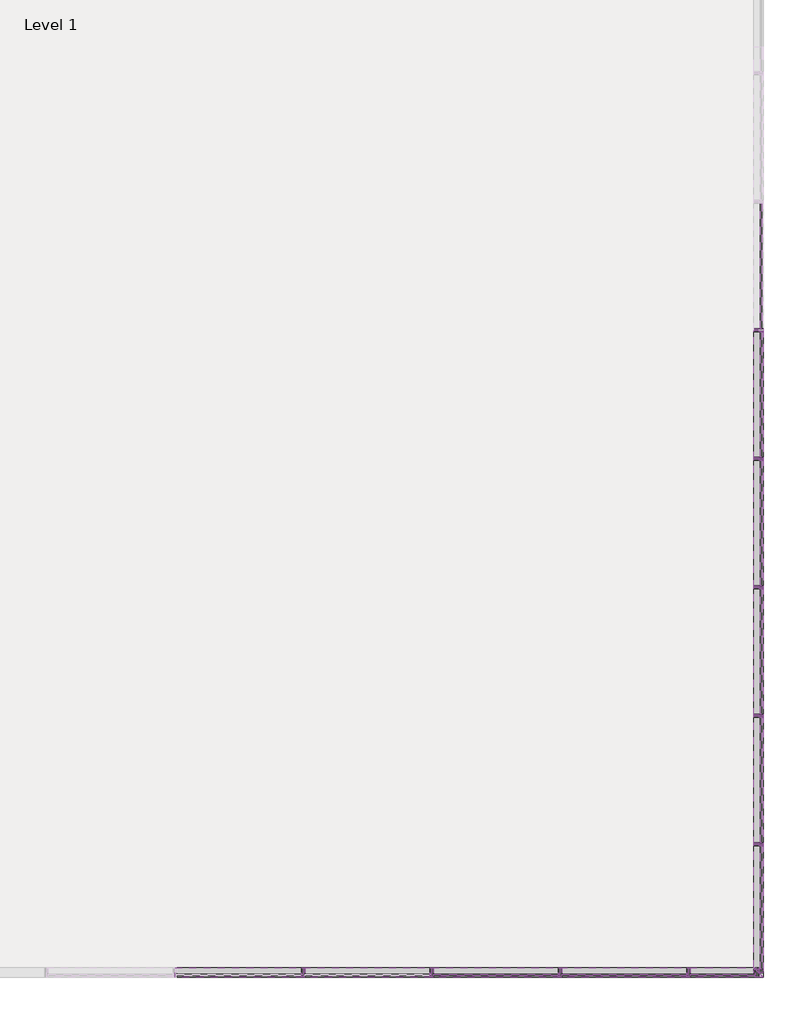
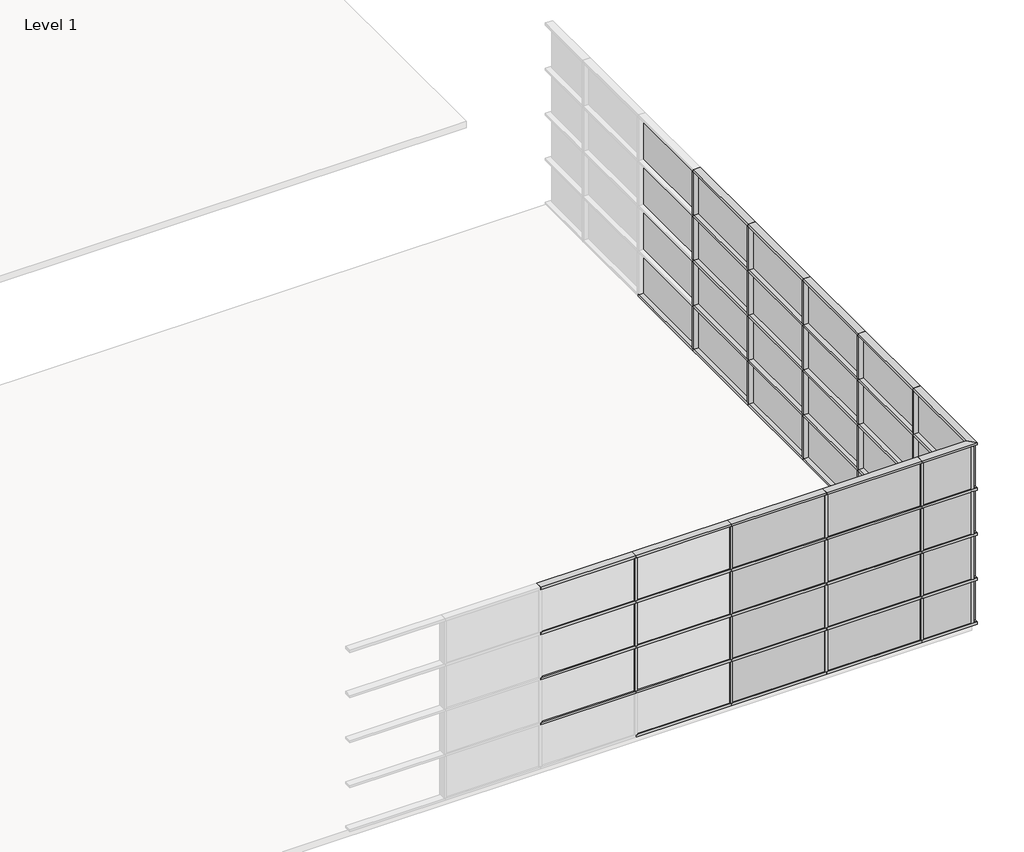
# One storey, part 3 of 6: 93 members, 36 plates.
"""IFC4 building model written with IfcOpenShell, lengths in millimetres."""

from ifc_helpers import new_model, si_unit, origin, place, context, project, spatial, transform, mapped, element, save
from components import rectangular_mullion_50_x_150mm_a053b0ca, rectangular_mullion_50_x_150mm_116cff39, rectangular_mullion_50_x_150mm_aa47fe12, rectangular_mullion_50_x_150mm_3a148f0f, rectangular_mullion_50_x_150mm_a91aaa2b, rectangular_mullion_50_x_150mm_12a430f9, rectangular_mullion_50_x_150mm_947845bb, rectangular_mullion_50_x_150mm_614fafcd, rectangular_mullion_50_x_150mm_f68fa77e, rectangular_mullion_50_x_150mm_6811f105, system_panel_glazed_92d57a36, system_panel_glazed_751a585c, system_panel_glazed_28c32ad2, system_panel_glazed_08de6f5f, system_panel_glazed_5611fd39, system_panel_glazed_3987acf4

model = new_model("IFC4")

# Units and contexts
model_context = context("Model", 3, world=origin())
ifc_project = project(units=[si_unit("LENGTHUNIT", "METRE", prefix="MILLI")], contexts=[model_context])

# Site, building, storey
site = spatial("IfcSite", under=ifc_project)
building = spatial("IfcBuilding", under=site)
storey = spatial("IfcBuildingStorey", under=building, Name="Level 1", Elevation=0.0)

# Members
placement = place(None, origin())
rectangular_mullion_50_x_150mm_shape = rectangular_mullion_50_x_150mm_a053b0ca(model_context)
element("IfcMember", 1, ObjectType="Rectangular Mullion : 50 x 150mm", at=placement, inside=storey, context=model_context, shape_type="MappedRepresentation", body=[
    mapped(rectangular_mullion_50_x_150mm_shape, transform((6412.826594, -21988.7417365, 1025.0), x_axis=(1.0, 0.0, 0.0), y_axis=(0.0, -1.0, 0.0), z_axis=(0.0, 0.0, -0.9999999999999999))),
])
element("IfcMember", 2, ObjectType="Rectangular Mullion : 50 x 150mm", at=placement, inside=storey, context=model_context, shape_type="MappedRepresentation", body=[
    mapped(rectangular_mullion_50_x_150mm_shape, transform((6412.826594, -21988.7417365, 2025.0), x_axis=(1.0, 0.0, 0.0), y_axis=(0.0, -1.0, 0.0), z_axis=(0.0, 0.0, -0.9999999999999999))),
])
element("IfcMember", 3, ObjectType="Rectangular Mullion : 50 x 150mm", at=placement, inside=storey, context=model_context, shape_type="MappedRepresentation", body=[
    mapped(rectangular_mullion_50_x_150mm_shape, transform((6412.826594, -21988.7417365, 3025.0), x_axis=(1.0, 0.0, 0.0), y_axis=(0.0, -1.0, 0.0), z_axis=(0.0, 0.0, -1.0))),
])
element("IfcMember", 4, ObjectType="Rectangular Mullion : 50 x 150mm", at=placement, inside=storey, context=model_context, shape_type="MappedRepresentation", body=[
    mapped(rectangular_mullion_50_x_150mm_shape, transform((8412.826594, -21988.7417365, 1025.0), x_axis=(1.0, 0.0, 0.0), y_axis=(0.0, -1.0, 0.0), z_axis=(0.0, 0.0, -0.9999999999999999))),
])
element("IfcMember", 5, ObjectType="Rectangular Mullion : 50 x 150mm", at=placement, inside=storey, context=model_context, shape_type="MappedRepresentation", body=[
    mapped(rectangular_mullion_50_x_150mm_shape, transform((8412.826594, -21988.7417365, 2025.0), x_axis=(1.0, 0.0, 0.0), y_axis=(0.0, -1.0, 0.0), z_axis=(0.0, 0.0, -0.9999999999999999))),
])
element("IfcMember", 6, ObjectType="Rectangular Mullion : 50 x 150mm", at=placement, inside=storey, context=model_context, shape_type="MappedRepresentation", body=[
    mapped(rectangular_mullion_50_x_150mm_shape, transform((8412.826594, -21988.7417365, 3025.0), x_axis=(1.0, 0.0, 0.0), y_axis=(0.0, -1.0, 0.0), z_axis=(0.0, 0.0, -1.0))),
])
element("IfcMember", 7, ObjectType="Rectangular Mullion : 50 x 150mm", at=placement, inside=storey, context=model_context, shape_type="MappedRepresentation", body=[
    mapped(rectangular_mullion_50_x_150mm_shape, transform((10412.826594, -21988.7417365, 1025.0), x_axis=(1.0, 0.0, 0.0), y_axis=(0.0, -1.0, 0.0), z_axis=(0.0, 0.0, -0.9999999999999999))),
])
element("IfcMember", 8, ObjectType="Rectangular Mullion : 50 x 150mm", at=placement, inside=storey, context=model_context, shape_type="MappedRepresentation", body=[
    mapped(rectangular_mullion_50_x_150mm_shape, transform((10412.826594, -21988.7417365, 2025.0), x_axis=(1.0, 0.0, 0.0), y_axis=(0.0, -1.0, 0.0), z_axis=(0.0, 0.0, -0.9999999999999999))),
])
element("IfcMember", 9, ObjectType="Rectangular Mullion : 50 x 150mm", at=placement, inside=storey, context=model_context, shape_type="MappedRepresentation", body=[
    mapped(rectangular_mullion_50_x_150mm_shape, transform((10412.826594, -21988.7417365, 3025.0), x_axis=(1.0, 0.0, 0.0), y_axis=(0.0, -1.0, 0.0), z_axis=(0.0, 0.0, -1.0))),
])
element("IfcMember", 10, ObjectType="Rectangular Mullion : 50 x 150mm", at=placement, inside=storey, context=model_context, shape_type="MappedRepresentation", body=[
    mapped(rectangular_mullion_50_x_150mm_shape, transform((12412.826594, -21988.7417365, 1025.0), x_axis=(1.0, 0.0, 0.0), y_axis=(0.0, -1.0, 0.0), z_axis=(0.0, 0.0, -0.9999999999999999))),
])
element("IfcMember", 11, ObjectType="Rectangular Mullion : 50 x 150mm", at=placement, inside=storey, context=model_context, shape_type="MappedRepresentation", body=[
    mapped(rectangular_mullion_50_x_150mm_shape, transform((12412.826594, -21988.7417365, 2025.0), x_axis=(1.0, 0.0, 0.0), y_axis=(0.0, -1.0, 0.0), z_axis=(0.0, 0.0, -0.9999999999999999))),
])
element("IfcMember", 12, ObjectType="Rectangular Mullion : 50 x 150mm", at=placement, inside=storey, context=model_context, shape_type="MappedRepresentation", body=[
    mapped(rectangular_mullion_50_x_150mm_shape, transform((12412.826594, -21988.7417365, 3025.0), x_axis=(1.0, 0.0, 0.0), y_axis=(0.0, -1.0, 0.0), z_axis=(0.0, 0.0, -0.9999999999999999))),
])
element("IfcMember", 13, ObjectType="Rectangular Mullion : 50 x 150mm", at=placement, inside=storey, context=model_context, shape_type="MappedRepresentation", body=[
    mapped(rectangular_mullion_50_x_150mm_shape, transform((13503.2660975, -13988.7417365, 2025.0), x_axis=(0.0, 1.0, 0.0), y_axis=(1.0, 0.0, 0.0), z_axis=(0.0, 0.0, -0.9999999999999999))),
])
element("IfcMember", 14, ObjectType="Rectangular Mullion : 50 x 150mm", at=placement, inside=storey, context=model_context, shape_type="MappedRepresentation", body=[
    mapped(rectangular_mullion_50_x_150mm_shape, transform((13503.2660975, -13988.7417365, 3025.0), x_axis=(0.0, 1.0, 0.0), y_axis=(1.0, 0.0, 0.0), z_axis=(0.0, 0.0, -1.0))),
])
element("IfcMember", 15, ObjectType="Rectangular Mullion : 50 x 150mm", at=placement, inside=storey, context=model_context, shape_type="MappedRepresentation", body=[
    mapped(rectangular_mullion_50_x_150mm_shape, transform((13503.2660975, -11988.7417365, 1025.0), x_axis=(0.0, 1.0, 0.0), y_axis=(1.0, 0.0, 0.0), z_axis=(0.0, 0.0, -0.9999999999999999))),
])
element("IfcMember", 16, ObjectType="Rectangular Mullion : 50 x 150mm", at=placement, inside=storey, context=model_context, shape_type="MappedRepresentation", body=[
    mapped(rectangular_mullion_50_x_150mm_shape, transform((13503.2660975, -11988.7417365, 2025.0), x_axis=(0.0, 1.0, 0.0), y_axis=(1.0, 0.0, 0.0), z_axis=(0.0, 0.0, -0.9999999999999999))),
])
element("IfcMember", 17, ObjectType="Rectangular Mullion : 50 x 150mm", at=placement, inside=storey, context=model_context, shape_type="MappedRepresentation", body=[
    mapped(rectangular_mullion_50_x_150mm_shape, transform((13503.2660975, -11988.7417365, 3025.0), x_axis=(0.0, 1.0, 0.0), y_axis=(1.0, 0.0, 0.0), z_axis=(0.0, 0.0, -1.0))),
])
element("IfcMember", 18, ObjectType="Rectangular Mullion : 50 x 150mm", at=placement, inside=storey, context=model_context, shape_type="MappedRepresentation", body=[
    mapped(rectangular_mullion_50_x_150mm_shape, transform((13503.2660975, -15988.7417365, 1025.0), x_axis=(0.0, 1.0, 0.0), y_axis=(1.0, 0.0, 0.0), z_axis=(0.0, 0.0, -0.9999999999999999))),
])
element("IfcMember", 19, ObjectType="Rectangular Mullion : 50 x 150mm", at=placement, inside=storey, context=model_context, shape_type="MappedRepresentation", body=[
    mapped(rectangular_mullion_50_x_150mm_shape, transform((13503.2660975, -15988.7417365, 2025.0), x_axis=(0.0, 1.0, 0.0), y_axis=(1.0, 0.0, 0.0), z_axis=(0.0, 0.0, -0.9999999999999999))),
])
element("IfcMember", 20, ObjectType="Rectangular Mullion : 50 x 150mm", at=placement, inside=storey, context=model_context, shape_type="MappedRepresentation", body=[
    mapped(rectangular_mullion_50_x_150mm_shape, transform((13503.2660975, -15988.7417365, 3025.0), x_axis=(0.0, 1.0, 0.0), y_axis=(1.0, 0.0, 0.0), z_axis=(0.0, 0.0, -1.0))),
])
element("IfcMember", 21, ObjectType="Rectangular Mullion : 50 x 150mm", at=placement, inside=storey, context=model_context, shape_type="MappedRepresentation", body=[
    mapped(rectangular_mullion_50_x_150mm_shape, transform((13503.2660975, -13988.7417365, 1025.0), x_axis=(0.0, 1.0, 0.0), y_axis=(1.0, 0.0, 0.0), z_axis=(0.0, 0.0, -0.9999999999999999))),
])
element("IfcMember", 22, ObjectType="Rectangular Mullion : 50 x 150mm", at=placement, inside=storey, context=model_context, shape_type="MappedRepresentation", body=[
    mapped(rectangular_mullion_50_x_150mm_shape, transform((13503.2660975, -19988.7417365, 1025.0), x_axis=(0.0, 1.0, 0.0), y_axis=(1.0, 0.0, 0.0), z_axis=(0.0, 0.0, -0.9999999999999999))),
])
element("IfcMember", 23, ObjectType="Rectangular Mullion : 50 x 150mm", at=placement, inside=storey, context=model_context, shape_type="MappedRepresentation", body=[
    mapped(rectangular_mullion_50_x_150mm_shape, transform((13503.2660975, -19988.7417365, 2025.0), x_axis=(0.0, 1.0, 0.0), y_axis=(1.0, 0.0, 0.0), z_axis=(0.0, 0.0, -0.9999999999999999))),
])
element("IfcMember", 24, ObjectType="Rectangular Mullion : 50 x 150mm", at=placement, inside=storey, context=model_context, shape_type="MappedRepresentation", body=[
    mapped(rectangular_mullion_50_x_150mm_shape, transform((13503.2660975, -19988.7417365, 3025.0), x_axis=(0.0, 1.0, 0.0), y_axis=(1.0, 0.0, 0.0), z_axis=(0.0, 0.0, -1.0))),
])
element("IfcMember", 25, ObjectType="Rectangular Mullion : 50 x 150mm", at=placement, inside=storey, context=model_context, shape_type="MappedRepresentation", body=[
    mapped(rectangular_mullion_50_x_150mm_shape, transform((13503.2660975, -17988.7417365, 1025.0), x_axis=(0.0, 1.0, 0.0), y_axis=(1.0, 0.0, 0.0), z_axis=(0.0, 0.0, -0.9999999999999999))),
])
element("IfcMember", 26, ObjectType="Rectangular Mullion : 50 x 150mm", at=placement, inside=storey, context=model_context, shape_type="MappedRepresentation", body=[
    mapped(rectangular_mullion_50_x_150mm_shape, transform((13503.2660975, -17988.7417365, 2025.0), x_axis=(0.0, 1.0, 0.0), y_axis=(1.0, 0.0, 0.0), z_axis=(0.0, 0.0, -0.9999999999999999))),
])
element("IfcMember", 27, ObjectType="Rectangular Mullion : 50 x 150mm", at=placement, inside=storey, context=model_context, shape_type="MappedRepresentation", body=[
    mapped(rectangular_mullion_50_x_150mm_shape, transform((13503.2660975, -17988.7417365, 3025.0), x_axis=(0.0, 1.0, 0.0), y_axis=(1.0, 0.0, 0.0), z_axis=(0.0, 0.0, -1.0))),
])
rectangular_mullion_50_x_150mm_2_shape = rectangular_mullion_50_x_150mm_116cff39(model_context)
element("IfcMember", 28, ObjectType="Rectangular Mullion : 50 x 150mm", at=placement, inside=storey, context=model_context, shape_type="MappedRepresentation", body=[
    mapped(rectangular_mullion_50_x_150mm_2_shape, transform((8412.826594, -21988.7417365, 50.0), x_axis=(1.0, 0.0, 0.0), y_axis=(0.0, -1.0, 0.0), z_axis=(0.0, 0.0, -1.0))),
])
element("IfcMember", 29, ObjectType="Rectangular Mullion : 50 x 150mm", at=placement, inside=storey, context=model_context, shape_type="MappedRepresentation", body=[
    mapped(rectangular_mullion_50_x_150mm_2_shape, transform((10412.826594, -21988.7417365, 50.0), x_axis=(1.0, 0.0, 0.0), y_axis=(0.0, -1.0, 0.0), z_axis=(0.0, 0.0, -1.0))),
])
element("IfcMember", 30, ObjectType="Rectangular Mullion : 50 x 150mm", at=placement, inside=storey, context=model_context, shape_type="MappedRepresentation", body=[
    mapped(rectangular_mullion_50_x_150mm_2_shape, transform((12412.826594, -21988.7417365, 50.0), x_axis=(1.0, 0.0, 0.0), y_axis=(0.0, -1.0, 0.0), z_axis=(0.0, 0.0, -1.0))),
])
element("IfcMember", 31, ObjectType="Rectangular Mullion : 50 x 150mm", at=placement, inside=storey, context=model_context, shape_type="MappedRepresentation", body=[
    mapped(rectangular_mullion_50_x_150mm_2_shape, transform((13503.2660975, -11988.7417365, 50.0), x_axis=(0.0, 1.0, 0.0), y_axis=(1.0, 0.0, 0.0), z_axis=(0.0, 0.0, -1.0))),
])
element("IfcMember", 32, ObjectType="Rectangular Mullion : 50 x 150mm", at=placement, inside=storey, context=model_context, shape_type="MappedRepresentation", body=[
    mapped(rectangular_mullion_50_x_150mm_2_shape, transform((13503.2660975, -15988.7417365, 50.0), x_axis=(0.0, 1.0, 0.0), y_axis=(1.0, 0.0, 0.0), z_axis=(0.0, 0.0, -1.0))),
])
element("IfcMember", 33, ObjectType="Rectangular Mullion : 50 x 150mm", at=placement, inside=storey, context=model_context, shape_type="MappedRepresentation", body=[
    mapped(rectangular_mullion_50_x_150mm_2_shape, transform((13503.2660975, -13988.7417365, 50.0), x_axis=(0.0, 1.0, 0.0), y_axis=(1.0, 0.0, 0.0), z_axis=(0.0, 0.0, -1.0))),
])
element("IfcMember", 34, ObjectType="Rectangular Mullion : 50 x 150mm", at=placement, inside=storey, context=model_context, shape_type="MappedRepresentation", body=[
    mapped(rectangular_mullion_50_x_150mm_2_shape, transform((13503.2660975, -19988.7417365, 50.0), x_axis=(0.0, 1.0, 0.0), y_axis=(1.0, 0.0, 0.0), z_axis=(0.0, 0.0, -1.0))),
])
element("IfcMember", 35, ObjectType="Rectangular Mullion : 50 x 150mm", at=placement, inside=storey, context=model_context, shape_type="MappedRepresentation", body=[
    mapped(rectangular_mullion_50_x_150mm_2_shape, transform((13503.2660975, -17988.7417365, 50.0), x_axis=(0.0, 1.0, 0.0), y_axis=(1.0, 0.0, 0.0), z_axis=(0.0, 0.0, -1.0))),
])
rectangular_mullion_50_x_150mm_3_shape = rectangular_mullion_50_x_150mm_aa47fe12(model_context)
element("IfcMember", 36, ObjectType="Rectangular Mullion : 50 x 150mm", at=placement, inside=storey, context=model_context, shape_type="MappedRepresentation", body=[
    mapped(rectangular_mullion_50_x_150mm_3_shape, transform((6412.826594, -21988.7417365, 0.0), x_axis=(0.0, 0.0, -1.0), y_axis=(0.0, -1.0, 0.0), z_axis=(-1.0, 0.0, 0.0))),
])
element("IfcMember", 37, ObjectType="Rectangular Mullion : 50 x 150mm", at=placement, inside=storey, context=model_context, shape_type="MappedRepresentation", body=[
    mapped(rectangular_mullion_50_x_150mm_3_shape, transform((8412.826594, -21988.7417365, 0.0), x_axis=(0.0, 0.0, -1.0), y_axis=(0.0, -1.0, 0.0), z_axis=(-1.0, 0.0, 0.0))),
])
element("IfcMember", 38, ObjectType="Rectangular Mullion : 50 x 150mm", at=placement, inside=storey, context=model_context, shape_type="MappedRepresentation", body=[
    mapped(rectangular_mullion_50_x_150mm_3_shape, transform((10412.826594, -21988.7417365, 0.0), x_axis=(0.0, 0.0, -1.0), y_axis=(0.0, -1.0, 0.0), z_axis=(-1.0, 0.0, 0.0))),
])
element("IfcMember", 39, ObjectType="Rectangular Mullion : 50 x 150mm", at=placement, inside=storey, context=model_context, shape_type="MappedRepresentation", body=[
    mapped(rectangular_mullion_50_x_150mm_3_shape, transform((13503.2660975, -19988.7417365, 0.0), x_axis=(0.0, 0.0, -1.0), y_axis=(1.0, 0.0, 0.0), z_axis=(0.0, -1.0, 0.0))),
])
element("IfcMember", 40, ObjectType="Rectangular Mullion : 50 x 150mm", at=placement, inside=storey, context=model_context, shape_type="MappedRepresentation", body=[
    mapped(rectangular_mullion_50_x_150mm_3_shape, transform((13503.2660975, -17988.7417365, 0.0), x_axis=(0.0, 0.0, -1.0), y_axis=(1.0, 0.0, 0.0), z_axis=(0.0, -1.0, 0.0))),
])
element("IfcMember", 41, ObjectType="Rectangular Mullion : 50 x 150mm", at=placement, inside=storey, context=model_context, shape_type="MappedRepresentation", body=[
    mapped(rectangular_mullion_50_x_150mm_3_shape, transform((13503.2660975, -15988.7417365, 0.0), x_axis=(0.0, 0.0, -1.0), y_axis=(1.0, 0.0, 0.0), z_axis=(0.0, -1.0, 0.0))),
])
element("IfcMember", 42, ObjectType="Rectangular Mullion : 50 x 150mm", at=placement, inside=storey, context=model_context, shape_type="MappedRepresentation", body=[
    mapped(rectangular_mullion_50_x_150mm_3_shape, transform((13503.2660975, -13988.7417365, 0.0), x_axis=(0.0, 0.0, -1.0), y_axis=(1.0, 0.0, 0.0), z_axis=(0.0, -1.0, 0.0))),
])
element("IfcMember", 43, ObjectType="Rectangular Mullion : 50 x 150mm", at=placement, inside=storey, context=model_context, shape_type="MappedRepresentation", body=[
    mapped(rectangular_mullion_50_x_150mm_3_shape, transform((13503.2660975, -11988.7417365, 0.0), x_axis=(0.0, 0.0, -1.0), y_axis=(1.0, 0.0, 0.0), z_axis=(0.0, -1.0, 0.0))),
])
rectangular_mullion_50_x_150mm_4_shape = rectangular_mullion_50_x_150mm_3a148f0f(model_context)
element("IfcMember", 44, ObjectType="Rectangular Mullion : 50 x 150mm", at=placement, inside=storey, context=model_context, shape_type="MappedRepresentation", body=[
    mapped(rectangular_mullion_50_x_150mm_4_shape, transform((6412.826594, -21988.7417365, 1000.0), x_axis=(0.0, 0.0, 1.0), y_axis=(0.0, -1.0, 0.0), z_axis=(1.0, 0.0, 0.0))),
])
element("IfcMember", 45, ObjectType="Rectangular Mullion : 50 x 150mm", at=placement, inside=storey, context=model_context, shape_type="MappedRepresentation", body=[
    mapped(rectangular_mullion_50_x_150mm_4_shape, transform((8412.826594, -21988.7417365, 1000.0), x_axis=(0.0, 0.0, 1.0), y_axis=(0.0, -1.0, 0.0), z_axis=(1.0, 0.0, 0.0))),
])
element("IfcMember", 46, ObjectType="Rectangular Mullion : 50 x 150mm", at=placement, inside=storey, context=model_context, shape_type="MappedRepresentation", body=[
    mapped(rectangular_mullion_50_x_150mm_4_shape, transform((10412.826594, -21988.7417365, 1000.0), x_axis=(0.0, 0.0, 1.0), y_axis=(0.0, -1.0, 0.0), z_axis=(1.0, 0.0, 0.0))),
])
element("IfcMember", 47, ObjectType="Rectangular Mullion : 50 x 150mm", at=placement, inside=storey, context=model_context, shape_type="MappedRepresentation", body=[
    mapped(rectangular_mullion_50_x_150mm_4_shape, transform((12412.826594, -21988.7417365, 1000.0), x_axis=(0.0, 0.0, 1.0), y_axis=(0.0, -1.0, 0.0), z_axis=(1.0, 0.0, 0.0))),
])
element("IfcMember", 48, ObjectType="Rectangular Mullion : 50 x 150mm", at=placement, inside=storey, context=model_context, shape_type="MappedRepresentation", body=[
    mapped(rectangular_mullion_50_x_150mm_4_shape, transform((6412.826594, -21988.7417365, 2000.0), x_axis=(0.0, 0.0, 1.0), y_axis=(0.0, -1.0, 0.0), z_axis=(1.0, 0.0, 0.0))),
])
element("IfcMember", 49, ObjectType="Rectangular Mullion : 50 x 150mm", at=placement, inside=storey, context=model_context, shape_type="MappedRepresentation", body=[
    mapped(rectangular_mullion_50_x_150mm_4_shape, transform((8412.826594, -21988.7417365, 2000.0), x_axis=(0.0, 0.0, 1.0), y_axis=(0.0, -1.0, 0.0), z_axis=(1.0, 0.0, 0.0))),
])
element("IfcMember", 50, ObjectType="Rectangular Mullion : 50 x 150mm", at=placement, inside=storey, context=model_context, shape_type="MappedRepresentation", body=[
    mapped(rectangular_mullion_50_x_150mm_4_shape, transform((10412.826594, -21988.7417365, 2000.0), x_axis=(0.0, 0.0, 1.0), y_axis=(0.0, -1.0, 0.0), z_axis=(1.0, 0.0, 0.0))),
])
element("IfcMember", 51, ObjectType="Rectangular Mullion : 50 x 150mm", at=placement, inside=storey, context=model_context, shape_type="MappedRepresentation", body=[
    mapped(rectangular_mullion_50_x_150mm_4_shape, transform((12412.826594, -21988.7417365, 2000.0), x_axis=(0.0, 0.0, 1.0), y_axis=(0.0, -1.0, 0.0), z_axis=(1.0, 0.0, 0.0))),
])
element("IfcMember", 52, ObjectType="Rectangular Mullion : 50 x 150mm", at=placement, inside=storey, context=model_context, shape_type="MappedRepresentation", body=[
    mapped(rectangular_mullion_50_x_150mm_4_shape, transform((6412.826594, -21988.7417365, 3000.0), x_axis=(0.0, 0.0, 1.0), y_axis=(0.0, -1.0, 0.0), z_axis=(1.0, 0.0, 0.0))),
])
element("IfcMember", 53, ObjectType="Rectangular Mullion : 50 x 150mm", at=placement, inside=storey, context=model_context, shape_type="MappedRepresentation", body=[
    mapped(rectangular_mullion_50_x_150mm_4_shape, transform((8412.826594, -21988.7417365, 3000.0), x_axis=(0.0, 0.0, 1.0), y_axis=(0.0, -1.0, 0.0), z_axis=(1.0, 0.0, 0.0))),
])
element("IfcMember", 54, ObjectType="Rectangular Mullion : 50 x 150mm", at=placement, inside=storey, context=model_context, shape_type="MappedRepresentation", body=[
    mapped(rectangular_mullion_50_x_150mm_4_shape, transform((10412.826594, -21988.7417365, 3000.0), x_axis=(0.0, 0.0, 1.0), y_axis=(0.0, -1.0, 0.0), z_axis=(1.0, 0.0, 0.0))),
])
element("IfcMember", 55, ObjectType="Rectangular Mullion : 50 x 150mm", at=placement, inside=storey, context=model_context, shape_type="MappedRepresentation", body=[
    mapped(rectangular_mullion_50_x_150mm_4_shape, transform((12412.826594, -21988.7417365, 3000.0), x_axis=(0.0, 0.0, 1.0), y_axis=(0.0, -1.0, 0.0), z_axis=(1.0, 0.0, 0.0))),
])
element("IfcMember", 56, ObjectType="Rectangular Mullion : 50 x 150mm", at=placement, inside=storey, context=model_context, shape_type="MappedRepresentation", body=[
    mapped(rectangular_mullion_50_x_150mm_4_shape, transform((6412.826594, -21988.7417365, 4000.0), x_axis=(0.0, 0.0, 1.0), y_axis=(0.0, -1.0, 0.0), z_axis=(1.0, 0.0, 0.0))),
])
element("IfcMember", 57, ObjectType="Rectangular Mullion : 50 x 150mm", at=placement, inside=storey, context=model_context, shape_type="MappedRepresentation", body=[
    mapped(rectangular_mullion_50_x_150mm_4_shape, transform((8412.826594, -21988.7417365, 4000.0), x_axis=(0.0, 0.0, 1.0), y_axis=(0.0, -1.0, 0.0), z_axis=(1.0, 0.0, 0.0))),
])
element("IfcMember", 58, ObjectType="Rectangular Mullion : 50 x 150mm", at=placement, inside=storey, context=model_context, shape_type="MappedRepresentation", body=[
    mapped(rectangular_mullion_50_x_150mm_4_shape, transform((10412.826594, -21988.7417365, 4000.0), x_axis=(0.0, 0.0, 1.0), y_axis=(0.0, -1.0, 0.0), z_axis=(1.0, 0.0, 0.0))),
])
element("IfcMember", 59, ObjectType="Rectangular Mullion : 50 x 150mm", at=placement, inside=storey, context=model_context, shape_type="MappedRepresentation", body=[
    mapped(rectangular_mullion_50_x_150mm_4_shape, transform((12412.826594, -21988.7417365, 4000.0), x_axis=(0.0, 0.0, 1.0), y_axis=(0.0, -1.0, 0.0), z_axis=(1.0, 0.0, 0.0))),
])
element("IfcMember", 60, ObjectType="Rectangular Mullion : 50 x 150mm", at=placement, inside=storey, context=model_context, shape_type="MappedRepresentation", body=[
    mapped(rectangular_mullion_50_x_150mm_4_shape, transform((13503.2660975, -17988.7417365, 1000.0), x_axis=(0.0, 0.0, 1.0), y_axis=(1.0, 0.0, 0.0), z_axis=(0.0, 1.0, 0.0))),
])
element("IfcMember", 61, ObjectType="Rectangular Mullion : 50 x 150mm", at=placement, inside=storey, context=model_context, shape_type="MappedRepresentation", body=[
    mapped(rectangular_mullion_50_x_150mm_4_shape, transform((13503.2660975, -15988.7417365, 1000.0), x_axis=(0.0, 0.0, 1.0), y_axis=(1.0, 0.0, 0.0), z_axis=(0.0, 1.0, 0.0))),
])
element("IfcMember", 62, ObjectType="Rectangular Mullion : 50 x 150mm", at=placement, inside=storey, context=model_context, shape_type="MappedRepresentation", body=[
    mapped(rectangular_mullion_50_x_150mm_4_shape, transform((13503.2660975, -13988.7417365, 1000.0), x_axis=(0.0, 0.0, 1.0), y_axis=(1.0, 0.0, 0.0), z_axis=(0.0, 1.0, 0.0))),
])
element("IfcMember", 63, ObjectType="Rectangular Mullion : 50 x 150mm", at=placement, inside=storey, context=model_context, shape_type="MappedRepresentation", body=[
    mapped(rectangular_mullion_50_x_150mm_4_shape, transform((13503.2660975, -11988.7417365, 1000.0), x_axis=(0.0, 0.0, 1.0), y_axis=(1.0, 0.0, 0.0), z_axis=(0.0, 1.0, 0.0))),
])
element("IfcMember", 64, ObjectType="Rectangular Mullion : 50 x 150mm", at=placement, inside=storey, context=model_context, shape_type="MappedRepresentation", body=[
    mapped(rectangular_mullion_50_x_150mm_4_shape, transform((13503.2660975, -17988.7417365, 2000.0), x_axis=(0.0, 0.0, 1.0), y_axis=(1.0, 0.0, 0.0), z_axis=(0.0, 1.0, 0.0))),
])
element("IfcMember", 65, ObjectType="Rectangular Mullion : 50 x 150mm", at=placement, inside=storey, context=model_context, shape_type="MappedRepresentation", body=[
    mapped(rectangular_mullion_50_x_150mm_4_shape, transform((13503.2660975, -15988.7417365, 2000.0), x_axis=(0.0, 0.0, 1.0), y_axis=(1.0, 0.0, 0.0), z_axis=(0.0, 1.0, 0.0))),
])
element("IfcMember", 66, ObjectType="Rectangular Mullion : 50 x 150mm", at=placement, inside=storey, context=model_context, shape_type="MappedRepresentation", body=[
    mapped(rectangular_mullion_50_x_150mm_4_shape, transform((13503.2660975, -13988.7417365, 2000.0), x_axis=(0.0, 0.0, 1.0), y_axis=(1.0, 0.0, 0.0), z_axis=(0.0, 1.0, 0.0))),
])
element("IfcMember", 67, ObjectType="Rectangular Mullion : 50 x 150mm", at=placement, inside=storey, context=model_context, shape_type="MappedRepresentation", body=[
    mapped(rectangular_mullion_50_x_150mm_4_shape, transform((13503.2660975, -11988.7417365, 2000.0), x_axis=(0.0, 0.0, 1.0), y_axis=(1.0, 0.0, 0.0), z_axis=(0.0, 1.0, 0.0))),
])
element("IfcMember", 68, ObjectType="Rectangular Mullion : 50 x 150mm", at=placement, inside=storey, context=model_context, shape_type="MappedRepresentation", body=[
    mapped(rectangular_mullion_50_x_150mm_4_shape, transform((13503.2660975, -17988.7417365, 3000.0), x_axis=(0.0, 0.0, 1.0), y_axis=(1.0, 0.0, 0.0), z_axis=(0.0, 1.0, 0.0))),
])
element("IfcMember", 69, ObjectType="Rectangular Mullion : 50 x 150mm", at=placement, inside=storey, context=model_context, shape_type="MappedRepresentation", body=[
    mapped(rectangular_mullion_50_x_150mm_4_shape, transform((13503.2660975, -15988.7417365, 3000.0), x_axis=(0.0, 0.0, 1.0), y_axis=(1.0, 0.0, 0.0), z_axis=(0.0, 1.0, 0.0))),
])
element("IfcMember", 70, ObjectType="Rectangular Mullion : 50 x 150mm", at=placement, inside=storey, context=model_context, shape_type="MappedRepresentation", body=[
    mapped(rectangular_mullion_50_x_150mm_4_shape, transform((13503.2660975, -13988.7417365, 3000.0), x_axis=(0.0, 0.0, 1.0), y_axis=(1.0, 0.0, 0.0), z_axis=(0.0, 1.0, 0.0))),
])
element("IfcMember", 71, ObjectType="Rectangular Mullion : 50 x 150mm", at=placement, inside=storey, context=model_context, shape_type="MappedRepresentation", body=[
    mapped(rectangular_mullion_50_x_150mm_4_shape, transform((13503.2660975, -11988.7417365, 3000.0), x_axis=(0.0, 0.0, 1.0), y_axis=(1.0, 0.0, 0.0), z_axis=(0.0, 1.0, 0.0))),
])
element("IfcMember", 72, ObjectType="Rectangular Mullion : 50 x 150mm", at=placement, inside=storey, context=model_context, shape_type="MappedRepresentation", body=[
    mapped(rectangular_mullion_50_x_150mm_4_shape, transform((13503.2660975, -17988.7417365, 4000.0), x_axis=(0.0, 0.0, 1.0), y_axis=(1.0, 0.0, 0.0), z_axis=(0.0, 1.0, 0.0))),
])
element("IfcMember", 73, ObjectType="Rectangular Mullion : 50 x 150mm", at=placement, inside=storey, context=model_context, shape_type="MappedRepresentation", body=[
    mapped(rectangular_mullion_50_x_150mm_4_shape, transform((13503.2660975, -15988.7417365, 4000.0), x_axis=(0.0, 0.0, 1.0), y_axis=(1.0, 0.0, 0.0), z_axis=(0.0, 1.0, 0.0))),
])
element("IfcMember", 74, ObjectType="Rectangular Mullion : 50 x 150mm", at=placement, inside=storey, context=model_context, shape_type="MappedRepresentation", body=[
    mapped(rectangular_mullion_50_x_150mm_4_shape, transform((13503.2660975, -13988.7417365, 4000.0), x_axis=(0.0, 0.0, 1.0), y_axis=(1.0, 0.0, 0.0), z_axis=(0.0, 1.0, 0.0))),
])
element("IfcMember", 75, ObjectType="Rectangular Mullion : 50 x 150mm", at=placement, inside=storey, context=model_context, shape_type="MappedRepresentation", body=[
    mapped(rectangular_mullion_50_x_150mm_4_shape, transform((13503.2660975, -11988.7417365, 4000.0), x_axis=(0.0, 0.0, 1.0), y_axis=(1.0, 0.0, 0.0), z_axis=(0.0, 1.0, 0.0))),
])
rectangular_mullion_50_x_150mm_5_shape = rectangular_mullion_50_x_150mm_a91aaa2b(model_context)
element("IfcMember", 76, ObjectType="Rectangular Mullion : 50 x 150mm", at=placement, inside=storey, context=model_context, shape_type="MappedRepresentation", body=[
    mapped(rectangular_mullion_50_x_150mm_5_shape, transform((13503.2660975, -21988.7417365, 975.0), x_axis=(0.0, -1.0, 0.0), y_axis=(1.0, 0.0, 0.0), z_axis=(0.0, 0.0, 1.0))),
])
rectangular_mullion_50_x_150mm_6_shape = rectangular_mullion_50_x_150mm_12a430f9(model_context)
element("IfcMember", 77, ObjectType="Rectangular Mullion : 50 x 150mm", at=placement, inside=storey, context=model_context, shape_type="MappedRepresentation", body=[
    mapped(rectangular_mullion_50_x_150mm_6_shape, transform((13503.2660975, -21988.7417365, 1975.0), x_axis=(0.0, -1.0, 0.0), y_axis=(1.0, 0.0, 0.0), z_axis=(0.0, 0.0, 0.9999999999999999))),
])
element("IfcMember", 78, ObjectType="Rectangular Mullion : 50 x 150mm", at=placement, inside=storey, context=model_context, shape_type="MappedRepresentation", body=[
    mapped(rectangular_mullion_50_x_150mm_6_shape, transform((13503.2660975, -21988.7417365, 2975.0), x_axis=(0.0, -1.0, 0.0), y_axis=(1.0, 0.0, 0.0), z_axis=(0.0, 0.0, 0.9999999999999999))),
])
element("IfcMember", 79, ObjectType="Rectangular Mullion : 50 x 150mm", at=placement, inside=storey, context=model_context, shape_type="MappedRepresentation", body=[
    mapped(rectangular_mullion_50_x_150mm_6_shape, transform((13503.2660975, -21988.7417365, 3975.0), x_axis=(0.0, -1.0, 0.0), y_axis=(1.0, 0.0, 0.0), z_axis=(0.0, 0.0, 1.0))),
])
element("IfcMember", 80, ObjectType="Rectangular Mullion : 50 x 150mm", at=placement, inside=storey, context=model_context, shape_type="MappedRepresentation", body=[
    mapped(rectangular_mullion_50_x_150mm_6_shape, transform((13503.2660975, -21988.7417365, 1025.0), x_axis=(1.0, 0.0, 0.0), y_axis=(0.0, -1.0, 0.0), z_axis=(0.0, 0.0, -0.9999999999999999))),
])
element("IfcMember", 81, ObjectType="Rectangular Mullion : 50 x 150mm", at=placement, inside=storey, context=model_context, shape_type="MappedRepresentation", body=[
    mapped(rectangular_mullion_50_x_150mm_6_shape, transform((13503.2660975, -21988.7417365, 2025.0), x_axis=(1.0, 0.0, 0.0), y_axis=(0.0, -1.0, 0.0), z_axis=(0.0, 0.0, -0.9999999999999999))),
])
element("IfcMember", 82, ObjectType="Rectangular Mullion : 50 x 150mm", at=placement, inside=storey, context=model_context, shape_type="MappedRepresentation", body=[
    mapped(rectangular_mullion_50_x_150mm_6_shape, transform((13503.2660975, -21988.7417365, 3025.0), x_axis=(1.0, 0.0, 0.0), y_axis=(0.0, -1.0, 0.0), z_axis=(0.0, 0.0, -1.0))),
])
element("IfcMember", 83, ObjectType="Rectangular Mullion : 50 x 150mm", at=placement, inside=storey, context=model_context, shape_type="MappedRepresentation", body=[
    mapped(rectangular_mullion_50_x_150mm_5_shape, transform((13503.2660975, -21988.7417365, 50.0), x_axis=(1.0, 0.0, 0.0), y_axis=(0.0, -1.0, 0.0), z_axis=(0.0, 0.0, -1.0))),
])
rectangular_mullion_50_x_150mm_7_shape = rectangular_mullion_50_x_150mm_947845bb(model_context)
element("IfcMember", 84, ObjectType="Rectangular Mullion : 50 x 150mm", at=placement, inside=storey, context=model_context, shape_type="MappedRepresentation", body=[
    mapped(rectangular_mullion_50_x_150mm_7_shape, transform((13503.2660975, -19988.7417365, 1000.0), x_axis=(0.0, 0.0, 1.0), y_axis=(1.0, 0.0, 0.0), z_axis=(0.0, 1.0, 0.0))),
])
element("IfcMember", 85, ObjectType="Rectangular Mullion : 50 x 150mm", at=placement, inside=storey, context=model_context, shape_type="MappedRepresentation", body=[
    mapped(rectangular_mullion_50_x_150mm_7_shape, transform((13503.2660975, -19988.7417365, 2000.0), x_axis=(0.0, 0.0, 1.0), y_axis=(1.0, 0.0, 0.0), z_axis=(0.0, 1.0, 0.0))),
])
element("IfcMember", 86, ObjectType="Rectangular Mullion : 50 x 150mm", at=placement, inside=storey, context=model_context, shape_type="MappedRepresentation", body=[
    mapped(rectangular_mullion_50_x_150mm_7_shape, transform((13503.2660975, -19988.7417365, 3000.0), x_axis=(0.0, 0.0, 1.0), y_axis=(1.0, 0.0, 0.0), z_axis=(0.0, 1.0, 0.0))),
])
element("IfcMember", 87, ObjectType="Rectangular Mullion : 50 x 150mm", at=placement, inside=storey, context=model_context, shape_type="MappedRepresentation", body=[
    mapped(rectangular_mullion_50_x_150mm_7_shape, transform((13503.2660975, -19988.7417365, 4000.0), x_axis=(0.0, 0.0, 1.0), y_axis=(1.0, 0.0, 0.0), z_axis=(0.0, 1.0, 0.0))),
])
rectangular_mullion_50_x_150mm_8_shape = rectangular_mullion_50_x_150mm_614fafcd(model_context)
element("IfcMember", 88, ObjectType="Rectangular Mullion : 50 x 150mm", at=placement, inside=storey, context=model_context, shape_type="MappedRepresentation", body=[
    mapped(rectangular_mullion_50_x_150mm_8_shape, transform((13503.2660975, -21988.7417365, 0.0), x_axis=(0.0, 0.0, -1.0), y_axis=(1.0, 0.0, 0.0), z_axis=(0.0, -1.0, 0.0))),
])
rectangular_mullion_50_x_150mm_9_shape = rectangular_mullion_50_x_150mm_f68fa77e(model_context)
element("IfcMember", 89, ObjectType="Rectangular Mullion : 50 x 150mm", at=placement, inside=storey, context=model_context, shape_type="MappedRepresentation", body=[
    mapped(rectangular_mullion_50_x_150mm_9_shape, transform((13503.2660975, -21988.7417365, 4000.0), x_axis=(0.0, 0.0, 1.0), y_axis=(0.0, -1.0, 0.0), z_axis=(0.9999999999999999, 0.0, 0.0))),
])
element("IfcMember", 90, ObjectType="Rectangular Mullion : 50 x 150mm", at=placement, inside=storey, context=model_context, shape_type="MappedRepresentation", body=[
    mapped(rectangular_mullion_50_x_150mm_9_shape, transform((13503.2660975, -21988.7417365, 3000.0), x_axis=(0.0, 0.0, 1.0), y_axis=(0.0, -1.0, 0.0), z_axis=(0.9999999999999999, 0.0, 0.0))),
])
element("IfcMember", 91, ObjectType="Rectangular Mullion : 50 x 150mm", at=placement, inside=storey, context=model_context, shape_type="MappedRepresentation", body=[
    mapped(rectangular_mullion_50_x_150mm_9_shape, transform((13503.2660975, -21988.7417365, 2000.0), x_axis=(0.0, 0.0, 1.0), y_axis=(0.0, -1.0, 0.0), z_axis=(0.9999999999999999, 0.0, 0.0))),
])
element("IfcMember", 92, ObjectType="Rectangular Mullion : 50 x 150mm", at=placement, inside=storey, context=model_context, shape_type="MappedRepresentation", body=[
    mapped(rectangular_mullion_50_x_150mm_9_shape, transform((13503.2660975, -21988.7417365, 1000.0), x_axis=(0.0, 0.0, 1.0), y_axis=(0.0, -1.0, 0.0), z_axis=(0.9999999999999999, 0.0, 0.0))),
])
rectangular_mullion_50_x_150mm_10_shape = rectangular_mullion_50_x_150mm_6811f105(model_context)
element("IfcMember", 93, ObjectType="Rectangular Mullion : 50 x 150mm", at=placement, inside=storey, context=model_context, shape_type="MappedRepresentation", body=[
    mapped(rectangular_mullion_50_x_150mm_10_shape, transform((12412.826594, -21988.7417365, 0.0), x_axis=(0.0, 0.0, -1.0), y_axis=(0.0, -1.0, 0.0), z_axis=(-0.9999999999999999, 0.0, 0.0))),
])

# Plates
system_panel_glazed_shape = system_panel_glazed_92d57a36(model_context)
element("IfcPlate", 94, ObjectType="System Panel : Glazed", at=placement, inside=storey, context=model_context, shape_type="MappedRepresentation", body=[
    mapped(system_panel_glazed_shape, transform((13503.2660975, -21938.7417365, 512.5), x_axis=(0.0, 0.0, 1.0), y_axis=(1.0, 0.0, 0.0), z_axis=(0.0, 1.0, 0.0))),
])
system_panel_glazed_2_shape = system_panel_glazed_751a585c(model_context)
element("IfcPlate", 95, ObjectType="System Panel : Glazed", at=placement, inside=storey, context=model_context, shape_type="MappedRepresentation", body=[
    mapped(system_panel_glazed_2_shape, transform((13503.2660975, -21938.7417365, 1500.0), x_axis=(0.0, 0.0, 1.0), y_axis=(1.0, 0.0, 0.0), z_axis=(0.0, 1.0, 0.0))),
])
element("IfcPlate", 96, ObjectType="System Panel : Glazed", at=placement, inside=storey, context=model_context, shape_type="MappedRepresentation", body=[
    mapped(system_panel_glazed_2_shape, transform((13503.2660975, -21938.7417365, 2500.0), x_axis=(0.0, 0.0, 1.0), y_axis=(1.0, 0.0, 0.0), z_axis=(0.0, 1.0, 0.0))),
])
element("IfcPlate", 97, ObjectType="System Panel : Glazed", at=placement, inside=storey, context=model_context, shape_type="MappedRepresentation", body=[
    mapped(system_panel_glazed_2_shape, transform((13503.2660975, -21938.7417365, 3500.0), x_axis=(0.0, 0.0, 1.0), y_axis=(1.0, 0.0, 0.0), z_axis=(0.0, 1.0, 0.0))),
])
system_panel_glazed_3_shape = system_panel_glazed_28c32ad2(model_context)
element("IfcPlate", 98, ObjectType="System Panel : Glazed", at=placement, inside=storey, context=model_context, shape_type="MappedRepresentation", body=[
    mapped(system_panel_glazed_3_shape, transform((8437.826594, -21988.7417365, 512.5), x_axis=(0.0, 0.0, 1.0), y_axis=(0.0, -1.0, 0.0), z_axis=(1.0, 0.0, 0.0))),
])
element("IfcPlate", 99, ObjectType="System Panel : Glazed", at=placement, inside=storey, context=model_context, shape_type="MappedRepresentation", body=[
    mapped(system_panel_glazed_3_shape, transform((10437.826594, -21988.7417365, 512.5), x_axis=(0.0, 0.0, 1.0), y_axis=(0.0, -1.0, 0.0), z_axis=(1.0, 0.0, 0.0))),
])
element("IfcPlate", 100, ObjectType="System Panel : Glazed", at=placement, inside=storey, context=model_context, shape_type="MappedRepresentation", body=[
    mapped(system_panel_glazed_3_shape, transform((13503.2660975, -19963.7417365, 512.5), x_axis=(0.0, 0.0, 1.0), y_axis=(1.0, 0.0, 0.0), z_axis=(0.0, 1.0, 0.0))),
])
element("IfcPlate", 101, ObjectType="System Panel : Glazed", at=placement, inside=storey, context=model_context, shape_type="MappedRepresentation", body=[
    mapped(system_panel_glazed_3_shape, transform((13503.2660975, -17963.7417365, 512.5), x_axis=(0.0, 0.0, 1.0), y_axis=(1.0, 0.0, 0.0), z_axis=(0.0, 1.0, 0.0))),
])
element("IfcPlate", 102, ObjectType="System Panel : Glazed", at=placement, inside=storey, context=model_context, shape_type="MappedRepresentation", body=[
    mapped(system_panel_glazed_3_shape, transform((13503.2660975, -15963.7417365, 512.5), x_axis=(0.0, 0.0, 1.0), y_axis=(1.0, 0.0, 0.0), z_axis=(0.0, 1.0, 0.0))),
])
element("IfcPlate", 103, ObjectType="System Panel : Glazed", at=placement, inside=storey, context=model_context, shape_type="MappedRepresentation", body=[
    mapped(system_panel_glazed_3_shape, transform((13503.2660975, -13963.7417365, 512.5), x_axis=(0.0, 0.0, 1.0), y_axis=(1.0, 0.0, 0.0), z_axis=(0.0, 1.0, 0.0))),
])
element("IfcPlate", 104, ObjectType="System Panel : Glazed", at=placement, inside=storey, context=model_context, shape_type="MappedRepresentation", body=[
    mapped(system_panel_glazed_3_shape, transform((13503.2660975, -11963.7417365, 512.5), x_axis=(0.0, 0.0, 1.0), y_axis=(1.0, 0.0, 0.0), z_axis=(0.0, 1.0, 0.0))),
])
system_panel_glazed_4_shape = system_panel_glazed_08de6f5f(model_context)
element("IfcPlate", 105, ObjectType="System Panel : Glazed", at=placement, inside=storey, context=model_context, shape_type="MappedRepresentation", body=[
    mapped(system_panel_glazed_4_shape, transform((8437.826594, -21988.7417365, 1500.0), x_axis=(0.0, 0.0, 1.0), y_axis=(0.0, -1.0, 0.0), z_axis=(1.0, 0.0, 0.0))),
])
element("IfcPlate", 106, ObjectType="System Panel : Glazed", at=placement, inside=storey, context=model_context, shape_type="MappedRepresentation", body=[
    mapped(system_panel_glazed_4_shape, transform((8437.826594, -21988.7417365, 2500.0), x_axis=(0.0, 0.0, 1.0), y_axis=(0.0, -1.0, 0.0), z_axis=(1.0, 0.0, 0.0))),
])
element("IfcPlate", 107, ObjectType="System Panel : Glazed", at=placement, inside=storey, context=model_context, shape_type="MappedRepresentation", body=[
    mapped(system_panel_glazed_4_shape, transform((8437.826594, -21988.7417365, 3500.0), x_axis=(0.0, 0.0, 1.0), y_axis=(0.0, -1.0, 0.0), z_axis=(1.0, 0.0, 0.0))),
])
element("IfcPlate", 108, ObjectType="System Panel : Glazed", at=placement, inside=storey, context=model_context, shape_type="MappedRepresentation", body=[
    mapped(system_panel_glazed_4_shape, transform((10437.826594, -21988.7417365, 1500.0), x_axis=(0.0, 0.0, 1.0), y_axis=(0.0, -1.0, 0.0), z_axis=(1.0, 0.0, 0.0))),
])
element("IfcPlate", 109, ObjectType="System Panel : Glazed", at=placement, inside=storey, context=model_context, shape_type="MappedRepresentation", body=[
    mapped(system_panel_glazed_4_shape, transform((10437.826594, -21988.7417365, 2500.0), x_axis=(0.0, 0.0, 1.0), y_axis=(0.0, -1.0, 0.0), z_axis=(1.0, 0.0, 0.0))),
])
element("IfcPlate", 110, ObjectType="System Panel : Glazed", at=placement, inside=storey, context=model_context, shape_type="MappedRepresentation", body=[
    mapped(system_panel_glazed_4_shape, transform((10437.826594, -21988.7417365, 3500.0), x_axis=(0.0, 0.0, 1.0), y_axis=(0.0, -1.0, 0.0), z_axis=(1.0, 0.0, 0.0))),
])
element("IfcPlate", 111, ObjectType="System Panel : Glazed", at=placement, inside=storey, context=model_context, shape_type="MappedRepresentation", body=[
    mapped(system_panel_glazed_4_shape, transform((13503.2660975, -19963.7417365, 1500.0), x_axis=(0.0, 0.0, 1.0), y_axis=(1.0, 0.0, 0.0), z_axis=(0.0, 1.0, 0.0))),
])
element("IfcPlate", 112, ObjectType="System Panel : Glazed", at=placement, inside=storey, context=model_context, shape_type="MappedRepresentation", body=[
    mapped(system_panel_glazed_4_shape, transform((13503.2660975, -19963.7417365, 2500.0), x_axis=(0.0, 0.0, 1.0), y_axis=(1.0, 0.0, 0.0), z_axis=(0.0, 1.0, 0.0))),
])
element("IfcPlate", 113, ObjectType="System Panel : Glazed", at=placement, inside=storey, context=model_context, shape_type="MappedRepresentation", body=[
    mapped(system_panel_glazed_4_shape, transform((13503.2660975, -19963.7417365, 3500.0), x_axis=(0.0, 0.0, 1.0), y_axis=(1.0, 0.0, 0.0), z_axis=(0.0, 1.0, 0.0))),
])
element("IfcPlate", 114, ObjectType="System Panel : Glazed", at=placement, inside=storey, context=model_context, shape_type="MappedRepresentation", body=[
    mapped(system_panel_glazed_4_shape, transform((13503.2660975, -17963.7417365, 1500.0), x_axis=(0.0, 0.0, 1.0), y_axis=(1.0, 0.0, 0.0), z_axis=(0.0, 1.0, 0.0))),
])
element("IfcPlate", 115, ObjectType="System Panel : Glazed", at=placement, inside=storey, context=model_context, shape_type="MappedRepresentation", body=[
    mapped(system_panel_glazed_4_shape, transform((13503.2660975, -17963.7417365, 2500.0), x_axis=(0.0, 0.0, 1.0), y_axis=(1.0, 0.0, 0.0), z_axis=(0.0, 1.0, 0.0))),
])
element("IfcPlate", 116, ObjectType="System Panel : Glazed", at=placement, inside=storey, context=model_context, shape_type="MappedRepresentation", body=[
    mapped(system_panel_glazed_4_shape, transform((13503.2660975, -17963.7417365, 3500.0), x_axis=(0.0, 0.0, 1.0), y_axis=(1.0, 0.0, 0.0), z_axis=(0.0, 1.0, 0.0))),
])
element("IfcPlate", 117, ObjectType="System Panel : Glazed", at=placement, inside=storey, context=model_context, shape_type="MappedRepresentation", body=[
    mapped(system_panel_glazed_4_shape, transform((13503.2660975, -15963.7417365, 1500.0), x_axis=(0.0, 0.0, 1.0), y_axis=(1.0, 0.0, 0.0), z_axis=(0.0, 1.0, 0.0))),
])
element("IfcPlate", 118, ObjectType="System Panel : Glazed", at=placement, inside=storey, context=model_context, shape_type="MappedRepresentation", body=[
    mapped(system_panel_glazed_4_shape, transform((13503.2660975, -15963.7417365, 2500.0), x_axis=(0.0, 0.0, 1.0), y_axis=(1.0, 0.0, 0.0), z_axis=(0.0, 1.0, 0.0))),
])
element("IfcPlate", 119, ObjectType="System Panel : Glazed", at=placement, inside=storey, context=model_context, shape_type="MappedRepresentation", body=[
    mapped(system_panel_glazed_4_shape, transform((13503.2660975, -15963.7417365, 3500.0), x_axis=(0.0, 0.0, 1.0), y_axis=(1.0, 0.0, 0.0), z_axis=(0.0, 1.0, 0.0))),
])
element("IfcPlate", 120, ObjectType="System Panel : Glazed", at=placement, inside=storey, context=model_context, shape_type="MappedRepresentation", body=[
    mapped(system_panel_glazed_4_shape, transform((13503.2660975, -13963.7417365, 1500.0), x_axis=(0.0, 0.0, 1.0), y_axis=(1.0, 0.0, 0.0), z_axis=(0.0, 1.0, 0.0))),
])
element("IfcPlate", 121, ObjectType="System Panel : Glazed", at=placement, inside=storey, context=model_context, shape_type="MappedRepresentation", body=[
    mapped(system_panel_glazed_4_shape, transform((13503.2660975, -13963.7417365, 2500.0), x_axis=(0.0, 0.0, 1.0), y_axis=(1.0, 0.0, 0.0), z_axis=(0.0, 1.0, 0.0))),
])
element("IfcPlate", 122, ObjectType="System Panel : Glazed", at=placement, inside=storey, context=model_context, shape_type="MappedRepresentation", body=[
    mapped(system_panel_glazed_4_shape, transform((13503.2660975, -13963.7417365, 3500.0), x_axis=(0.0, 0.0, 1.0), y_axis=(1.0, 0.0, 0.0), z_axis=(0.0, 1.0, 0.0))),
])
element("IfcPlate", 123, ObjectType="System Panel : Glazed", at=placement, inside=storey, context=model_context, shape_type="MappedRepresentation", body=[
    mapped(system_panel_glazed_4_shape, transform((13503.2660975, -11963.7417365, 1500.0), x_axis=(0.0, 0.0, 1.0), y_axis=(1.0, 0.0, 0.0), z_axis=(0.0, 1.0, 0.0))),
])
element("IfcPlate", 124, ObjectType="System Panel : Glazed", at=placement, inside=storey, context=model_context, shape_type="MappedRepresentation", body=[
    mapped(system_panel_glazed_4_shape, transform((13503.2660975, -11963.7417365, 2500.0), x_axis=(0.0, 0.0, 1.0), y_axis=(1.0, 0.0, 0.0), z_axis=(0.0, 1.0, 0.0))),
])
element("IfcPlate", 125, ObjectType="System Panel : Glazed", at=placement, inside=storey, context=model_context, shape_type="MappedRepresentation", body=[
    mapped(system_panel_glazed_4_shape, transform((13503.2660975, -11963.7417365, 3500.0), x_axis=(0.0, 0.0, 1.0), y_axis=(1.0, 0.0, 0.0), z_axis=(0.0, 1.0, 0.0))),
])
system_panel_glazed_5_shape = system_panel_glazed_5611fd39(model_context)
element("IfcPlate", 126, ObjectType="System Panel : Glazed", at=placement, inside=storey, context=model_context, shape_type="MappedRepresentation", body=[
    mapped(system_panel_glazed_5_shape, transform((12437.826594, -21988.7417365, 512.5), x_axis=(0.0, 0.0, 1.0), y_axis=(0.0, -1.0, 0.0), z_axis=(1.0, 0.0, 0.0))),
])
system_panel_glazed_6_shape = system_panel_glazed_3987acf4(model_context)
element("IfcPlate", 127, ObjectType="System Panel : Glazed", at=placement, inside=storey, context=model_context, shape_type="MappedRepresentation", body=[
    mapped(system_panel_glazed_6_shape, transform((12437.826594, -21988.7417365, 1500.0), x_axis=(0.0, 0.0, 1.0), y_axis=(0.0, -1.0, 0.0), z_axis=(1.0, 0.0, 0.0))),
])
element("IfcPlate", 128, ObjectType="System Panel : Glazed", at=placement, inside=storey, context=model_context, shape_type="MappedRepresentation", body=[
    mapped(system_panel_glazed_6_shape, transform((12437.826594, -21988.7417365, 2500.0), x_axis=(0.0, 0.0, 1.0), y_axis=(0.0, -1.0, 0.0), z_axis=(1.0, 0.0, 0.0))),
])
element("IfcPlate", 129, ObjectType="System Panel : Glazed", at=placement, inside=storey, context=model_context, shape_type="MappedRepresentation", body=[
    mapped(system_panel_glazed_6_shape, transform((12437.826594, -21988.7417365, 3500.0), x_axis=(0.0, 0.0, 1.0), y_axis=(0.0, -1.0, 0.0), z_axis=(1.0, 0.0, 0.0))),
])

save(model, "model.ifc")
